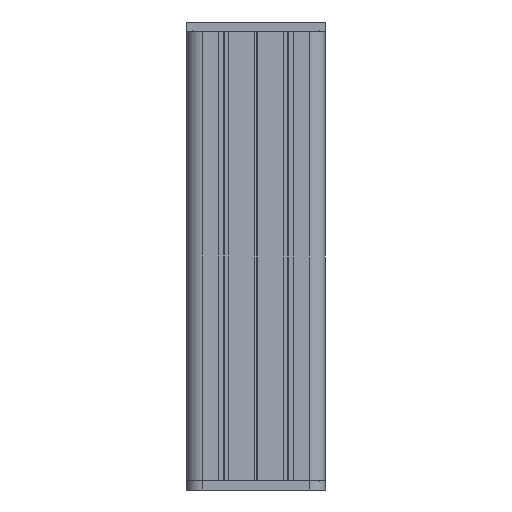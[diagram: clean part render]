
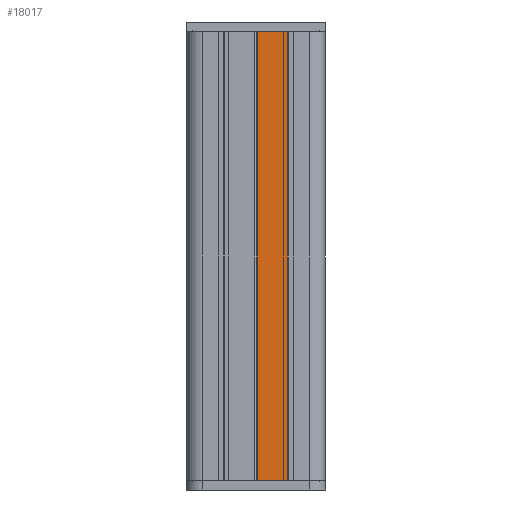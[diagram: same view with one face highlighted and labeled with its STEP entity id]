
A CAD part, left-side view. The second image highlights one B-rep face of the part: STEP entity #18017.
In plain terms, the highlighted planar face has unit normal (-1, 0, 0) as drawn and (0, -1, 0) by its records, which use the part's own axes.
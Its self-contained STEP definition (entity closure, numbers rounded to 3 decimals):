
#200 = EDGE_CURVE ( 'NONE', #27624, #22441, #27701, .T. ) ;
#376 = EDGE_CURVE ( 'NONE', #20876, #27624, #11545, .T. ) ;
#701 = CARTESIAN_POINT ( 'NONE',  ( 8., -5., -70. ) ) ;
#2711 = CARTESIAN_POINT ( 'NONE',  ( 8., -5., 70. ) ) ;
#3825 = CARTESIAN_POINT ( 'NONE',  ( 6.75, -5., -70. ) ) ;
#4226 = VERTEX_POINT ( 'NONE', #27262 ) ;
#5982 = CARTESIAN_POINT ( 'NONE',  ( 6.75, -5., 70. ) ) ;
#6583 = ORIENTED_EDGE ( 'NONE', *, *, #16585, .T. ) ;
#6629 = ORIENTED_EDGE ( 'NONE', *, *, #376, .F. ) ;
#7622 = DIRECTION ( 'NONE',  ( 1., 0., 0. ) ) ;
#8566 = EDGE_CURVE ( 'NONE', #20876, #4226, #12960, .T. ) ;
#9035 = LINE ( 'NONE', #29265, #19091 ) ;
#9647 = ORIENTED_EDGE ( 'NONE', *, *, #8566, .T. ) ;
#9856 = EDGE_LOOP ( 'NONE', ( #9647, #6583, #28474, #6629 ) ) ;
#10470 = CARTESIAN_POINT ( 'NONE',  ( 6.75, -5., -70. ) ) ;
#11545 = LINE ( 'NONE', #3825, #19824 ) ;
#12142 = PLANE ( 'NONE',  #18049 ) ;
#12960 = LINE ( 'NONE', #20645, #25894 ) ;
#13717 = DIRECTION ( 'NONE',  ( 1., 0., 0. ) ) ;
#15413 = FACE_OUTER_BOUND ( 'NONE', #9856, .T. ) ;
#16585 = EDGE_CURVE ( 'NONE', #4226, #22441, #9035, .T. ) ;
#17838 = DIRECTION ( 'NONE',  ( 0., 0., 1. ) ) ;
#18017 = ADVANCED_FACE ( 'NONE', ( #15413 ), #12142, .T. ) ;
#18049 = AXIS2_PLACEMENT_3D ( 'NONE', #701, #19077, #7622 ) ;
#19077 = DIRECTION ( 'NONE',  ( 0., -1., 0. ) ) ;
#19091 = VECTOR ( 'NONE', #17838, 1000. ) ;
#19816 = DIRECTION ( 'NONE',  ( 0., 0., 1. ) ) ;
#19824 = VECTOR ( 'NONE', #19816, 1000. ) ;
#20645 = CARTESIAN_POINT ( 'NONE',  ( 8., -5., -70. ) ) ;
#20876 = VERTEX_POINT ( 'NONE', #10470 ) ;
#21113 = DIRECTION ( 'NONE',  ( 1., 0., 0. ) ) ;
#22441 = VERTEX_POINT ( 'NONE', #24210 ) ;
#24210 = CARTESIAN_POINT ( 'NONE',  ( 16.279, -5., 70. ) ) ;
#25894 = VECTOR ( 'NONE', #13717, 1000. ) ;
#27262 = CARTESIAN_POINT ( 'NONE',  ( 16.279, -5., -70. ) ) ;
#27624 = VERTEX_POINT ( 'NONE', #5982 ) ;
#27701 = LINE ( 'NONE', #2711, #28423 ) ;
#28423 = VECTOR ( 'NONE', #21113, 1000. ) ;
#28474 = ORIENTED_EDGE ( 'NONE', *, *, #200, .F. ) ;
#29265 = CARTESIAN_POINT ( 'NONE',  ( 16.279, -5., -70. ) ) ;
